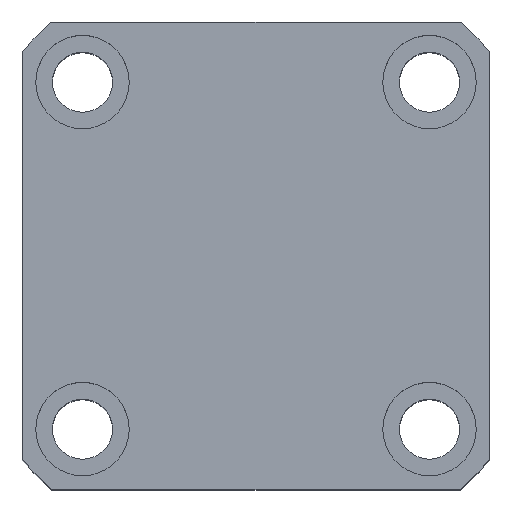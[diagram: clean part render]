
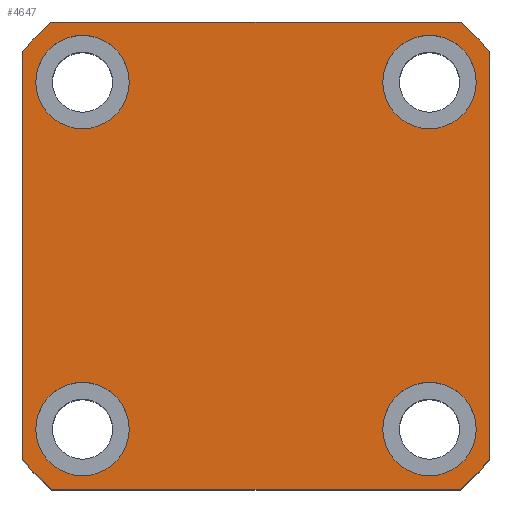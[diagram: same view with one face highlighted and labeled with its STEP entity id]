
A CAD part, top view. The second image highlights one B-rep face of the part: STEP entity #4647.
In plain terms, the highlighted planar face has unit normal (0, 0, 1).
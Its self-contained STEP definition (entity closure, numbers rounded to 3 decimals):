
#163 = CARTESIAN_POINT ( 'NONE',  ( 26., -26., 75. ) ) ;
#239 = EDGE_CURVE ( 'NONE', #5471, #2307, #3506, .T. ) ;
#375 = DIRECTION ( 'NONE',  ( 0., 0., 1. ) ) ;
#398 = DIRECTION ( 'NONE',  ( 0., 0., 1. ) ) ;
#478 = CARTESIAN_POINT ( 'NONE',  ( -26., 26., 75. ) ) ;
#547 = DIRECTION ( 'NONE',  ( 1., 0., 0. ) ) ;
#722 = VERTEX_POINT ( 'NONE', #5865 ) ;
#733 = CARTESIAN_POINT ( 'NONE',  ( 26., 26., 75. ) ) ;
#811 = CIRCLE ( 'NONE', #3103, 46.5 ) ;
#954 = DIRECTION ( 'NONE',  ( 1., 0., 0. ) ) ;
#1027 = CARTESIAN_POINT ( 'NONE',  ( -26., 26., 75. ) ) ;
#1056 = FACE_BOUND ( 'NONE', #9921, .T. ) ;
#1262 = ORIENTED_EDGE ( 'NONE', *, *, #8411, .T. ) ;
#1270 = DIRECTION ( 'NONE',  ( 1., 0., 0. ) ) ;
#1308 = CIRCLE ( 'NONE', #8681, 7. ) ;
#1348 = EDGE_LOOP ( 'NONE', ( #7634, #8290 ) ) ;
#1454 = CIRCLE ( 'NONE', #6933, 7. ) ;
#1492 = EDGE_LOOP ( 'NONE', ( #6083, #8263 ) ) ;
#1503 = ORIENTED_EDGE ( 'NONE', *, *, #9246, .T. ) ;
#1524 = CIRCLE ( 'NONE', #8300, 7. ) ;
#1531 = DIRECTION ( 'NONE',  ( 1., 0., 0. ) ) ;
#1542 = CIRCLE ( 'NONE', #7128, 7. ) ;
#1672 = LINE ( 'NONE', #3573, #5801 ) ;
#1689 = EDGE_CURVE ( 'NONE', #3881, #2312, #1542, .T. ) ;
#1753 = EDGE_CURVE ( 'NONE', #6563, #6077, #1308, .T. ) ;
#1790 = DIRECTION ( 'NONE',  ( 0., 0., 1. ) ) ;
#1813 = CARTESIAN_POINT ( 'NONE',  ( -35., 35., 75. ) ) ;
#1833 = DIRECTION ( 'NONE',  ( 1., 0., 0. ) ) ;
#1896 = AXIS2_PLACEMENT_3D ( 'NONE', #9810, #5203, #547 ) ;
#1901 = VERTEX_POINT ( 'NONE', #5813 ) ;
#2034 = EDGE_CURVE ( 'NONE', #7312, #7486, #2165, .T. ) ;
#2091 = VERTEX_POINT ( 'NONE', #3087 ) ;
#2159 = DIRECTION ( 'NONE',  ( 0., 0., 1. ) ) ;
#2165 = CIRCLE ( 'NONE', #4384, 46.5 ) ;
#2203 = CARTESIAN_POINT ( 'NONE',  ( -35., -35., 75. ) ) ;
#2261 = CARTESIAN_POINT ( 'NONE',  ( 33., 26., 75. ) ) ;
#2307 = VERTEX_POINT ( 'NONE', #9514 ) ;
#2312 = VERTEX_POINT ( 'NONE', #5674 ) ;
#2412 = VECTOR ( 'NONE', #2764, 1000. ) ;
#2440 = EDGE_LOOP ( 'NONE', ( #1503, #1262, #5598, #4891, #5026, #5970, #2970, #9830 ) ) ;
#2603 = AXIS2_PLACEMENT_3D ( 'NONE', #6392, #1790, #7167 ) ;
#2640 = DIRECTION ( 'NONE',  ( 0., 0., 1. ) ) ;
#2706 = CARTESIAN_POINT ( 'NONE',  ( -33., 26., 75. ) ) ;
#2764 = DIRECTION ( 'NONE',  ( 0., -1., 0. ) ) ;
#2798 = ORIENTED_EDGE ( 'NONE', *, *, #9322, .F. ) ;
#2864 = LINE ( 'NONE', #1813, #4652 ) ;
#2970 = ORIENTED_EDGE ( 'NONE', *, *, #3636, .T. ) ;
#3003 = AXIS2_PLACEMENT_3D ( 'NONE', #163, #5594, #954 ) ;
#3087 = CARTESIAN_POINT ( 'NONE',  ( -33., -26., 75. ) ) ;
#3088 = VERTEX_POINT ( 'NONE', #3913 ) ;
#3103 = AXIS2_PLACEMENT_3D ( 'NONE', #8071, #3458, #8852 ) ;
#3327 = AXIS2_PLACEMENT_3D ( 'NONE', #478, #5894, #1270 ) ;
#3401 = ORIENTED_EDGE ( 'NONE', *, *, #5397, .F. ) ;
#3458 = DIRECTION ( 'NONE',  ( 0., 0., 1. ) ) ;
#3506 = CIRCLE ( 'NONE', #6877, 46.5 ) ;
#3573 = CARTESIAN_POINT ( 'NONE',  ( 35., 35., 75. ) ) ;
#3636 = EDGE_CURVE ( 'NONE', #7486, #7604, #9059, .T. ) ;
#3693 = CARTESIAN_POINT ( 'NONE',  ( 0., 0., 75. ) ) ;
#3747 = CIRCLE ( 'NONE', #3327, 7. ) ;
#3860 = CARTESIAN_POINT ( 'NONE',  ( 35., 30.615, 75. ) ) ;
#3881 = VERTEX_POINT ( 'NONE', #2706 ) ;
#3913 = CARTESIAN_POINT ( 'NONE',  ( 33., -26., 75. ) ) ;
#4038 = ORIENTED_EDGE ( 'NONE', *, *, #8677, .F. ) ;
#4117 = CARTESIAN_POINT ( 'NONE',  ( -30.615, 35., 75. ) ) ;
#4143 = DIRECTION ( 'NONE',  ( -1., 0., 0. ) ) ;
#4279 = CARTESIAN_POINT ( 'NONE',  ( 0., 0., 75. ) ) ;
#4384 = AXIS2_PLACEMENT_3D ( 'NONE', #6761, #2159, #7535 ) ;
#4477 = DIRECTION ( 'NONE',  ( 1., 0., 0. ) ) ;
#4565 = EDGE_CURVE ( 'NONE', #7604, #1901, #811, .T. ) ;
#4639 = CARTESIAN_POINT ( 'NONE',  ( -19., -26., 75. ) ) ;
#4644 = CIRCLE ( 'NONE', #6274, 46.5 ) ;
#4647 = ADVANCED_FACE ( 'NONE', ( #8552, #1056, #4953, #6501, #4695 ), #5057, .T. ) ;
#4652 = VECTOR ( 'NONE', #4143, 1000. ) ;
#4662 = EDGE_CURVE ( 'NONE', #2307, #7312, #8327, .T. ) ;
#4695 = FACE_OUTER_BOUND ( 'NONE', #2440, .T. ) ;
#4891 = ORIENTED_EDGE ( 'NONE', *, *, #239, .T. ) ;
#4926 = CARTESIAN_POINT ( 'NONE',  ( 19., -26., 75. ) ) ;
#4953 = FACE_BOUND ( 'NONE', #7657, .T. ) ;
#5026 = ORIENTED_EDGE ( 'NONE', *, *, #4662, .T. ) ;
#5038 = CARTESIAN_POINT ( 'NONE',  ( -26., -26., 75. ) ) ;
#5057 = PLANE ( 'NONE',  #7738 ) ;
#5167 = CIRCLE ( 'NONE', #1896, 7. ) ;
#5203 = DIRECTION ( 'NONE',  ( 0., 0., 1. ) ) ;
#5397 = EDGE_CURVE ( 'NONE', #5556, #3088, #8404, .T. ) ;
#5471 = VERTEX_POINT ( 'NONE', #4117 ) ;
#5556 = VERTEX_POINT ( 'NONE', #4926 ) ;
#5594 = DIRECTION ( 'NONE',  ( 0., 0., 1. ) ) ;
#5598 = ORIENTED_EDGE ( 'NONE', *, *, #7443, .T. ) ;
#5629 = EDGE_CURVE ( 'NONE', #9375, #2091, #1524, .T. ) ;
#5674 = CARTESIAN_POINT ( 'NONE',  ( -19., 26., 75. ) ) ;
#5801 = VECTOR ( 'NONE', #8967, 1000. ) ;
#5802 = DIRECTION ( 'NONE',  ( 1., 0., 0. ) ) ;
#5813 = CARTESIAN_POINT ( 'NONE',  ( 35., -30.615, 75. ) ) ;
#5821 = DIRECTION ( 'NONE',  ( 1., 0., 0. ) ) ;
#5865 = CARTESIAN_POINT ( 'NONE',  ( 30.615, 35., 75. ) ) ;
#5894 = DIRECTION ( 'NONE',  ( 0., 0., 1. ) ) ;
#5895 = EDGE_CURVE ( 'NONE', #2091, #9375, #5167, .T. ) ;
#5970 = ORIENTED_EDGE ( 'NONE', *, *, #2034, .T. ) ;
#6077 = VERTEX_POINT ( 'NONE', #2261 ) ;
#6083 = ORIENTED_EDGE ( 'NONE', *, *, #9250, .F. ) ;
#6138 = DIRECTION ( 'NONE',  ( 0., 0., 1. ) ) ;
#6274 = AXIS2_PLACEMENT_3D ( 'NONE', #3693, #9086, #4477 ) ;
#6392 = CARTESIAN_POINT ( 'NONE',  ( 26., -26., 75. ) ) ;
#6440 = DIRECTION ( 'NONE',  ( 0., 0., 1. ) ) ;
#6501 = FACE_BOUND ( 'NONE', #1492, .T. ) ;
#6563 = VERTEX_POINT ( 'NONE', #8045 ) ;
#6761 = CARTESIAN_POINT ( 'NONE',  ( 0., 0., 75. ) ) ;
#6867 = DIRECTION ( 'NONE',  ( 1., 0., 0. ) ) ;
#6877 = AXIS2_PLACEMENT_3D ( 'NONE', #8240, #8200, #8169 ) ;
#6933 = AXIS2_PLACEMENT_3D ( 'NONE', #733, #6138, #1531 ) ;
#6981 = VECTOR ( 'NONE', #6867, 1000. ) ;
#7128 = AXIS2_PLACEMENT_3D ( 'NONE', #1027, #6440, #1833 ) ;
#7167 = DIRECTION ( 'NONE',  ( 1., 0., 0. ) ) ;
#7246 = CARTESIAN_POINT ( 'NONE',  ( 26., 26., 75. ) ) ;
#7312 = VERTEX_POINT ( 'NONE', #9494 ) ;
#7328 = ORIENTED_EDGE ( 'NONE', *, *, #1753, .F. ) ;
#7362 = CARTESIAN_POINT ( 'NONE',  ( -35., 35., 75. ) ) ;
#7443 = EDGE_CURVE ( 'NONE', #722, #5471, #2864, .T. ) ;
#7486 = VERTEX_POINT ( 'NONE', #8966 ) ;
#7535 = DIRECTION ( 'NONE',  ( 1., 0., 0. ) ) ;
#7563 = CARTESIAN_POINT ( 'NONE',  ( 30.615, -35., 75. ) ) ;
#7604 = VERTEX_POINT ( 'NONE', #7563 ) ;
#7634 = ORIENTED_EDGE ( 'NONE', *, *, #5629, .F. ) ;
#7657 = EDGE_LOOP ( 'NONE', ( #2798, #7328 ) ) ;
#7738 = AXIS2_PLACEMENT_3D ( 'NONE', #4279, #398, #5821 ) ;
#7761 = CIRCLE ( 'NONE', #3003, 7. ) ;
#8028 = DIRECTION ( 'NONE',  ( 1., 0., 0. ) ) ;
#8045 = CARTESIAN_POINT ( 'NONE',  ( 19., 26., 75. ) ) ;
#8071 = CARTESIAN_POINT ( 'NONE',  ( 0., 0., 75. ) ) ;
#8169 = DIRECTION ( 'NONE',  ( 1., 0., 0. ) ) ;
#8200 = DIRECTION ( 'NONE',  ( 0., 0., 1. ) ) ;
#8240 = CARTESIAN_POINT ( 'NONE',  ( 0., 0., 75. ) ) ;
#8263 = ORIENTED_EDGE ( 'NONE', *, *, #1689, .F. ) ;
#8290 = ORIENTED_EDGE ( 'NONE', *, *, #5895, .F. ) ;
#8300 = AXIS2_PLACEMENT_3D ( 'NONE', #5038, #375, #5802 ) ;
#8327 = LINE ( 'NONE', #7362, #2412 ) ;
#8404 = CIRCLE ( 'NONE', #2603, 7. ) ;
#8411 = EDGE_CURVE ( 'NONE', #9361, #722, #4644, .T. ) ;
#8552 = FACE_BOUND ( 'NONE', #1348, .T. ) ;
#8677 = EDGE_CURVE ( 'NONE', #3088, #5556, #7761, .T. ) ;
#8681 = AXIS2_PLACEMENT_3D ( 'NONE', #7246, #2640, #8028 ) ;
#8852 = DIRECTION ( 'NONE',  ( 1., 0., 0. ) ) ;
#8966 = CARTESIAN_POINT ( 'NONE',  ( -30.615, -35., 75. ) ) ;
#8967 = DIRECTION ( 'NONE',  ( 0., 1., 0. ) ) ;
#9059 = LINE ( 'NONE', #2203, #6981 ) ;
#9086 = DIRECTION ( 'NONE',  ( 0., 0., 1. ) ) ;
#9246 = EDGE_CURVE ( 'NONE', #1901, #9361, #1672, .T. ) ;
#9250 = EDGE_CURVE ( 'NONE', #2312, #3881, #3747, .T. ) ;
#9322 = EDGE_CURVE ( 'NONE', #6077, #6563, #1454, .T. ) ;
#9361 = VERTEX_POINT ( 'NONE', #3860 ) ;
#9375 = VERTEX_POINT ( 'NONE', #4639 ) ;
#9494 = CARTESIAN_POINT ( 'NONE',  ( -35., -30.615, 75. ) ) ;
#9514 = CARTESIAN_POINT ( 'NONE',  ( -35., 30.615, 75. ) ) ;
#9810 = CARTESIAN_POINT ( 'NONE',  ( -26., -26., 75. ) ) ;
#9830 = ORIENTED_EDGE ( 'NONE', *, *, #4565, .T. ) ;
#9921 = EDGE_LOOP ( 'NONE', ( #4038, #3401 ) ) ;
